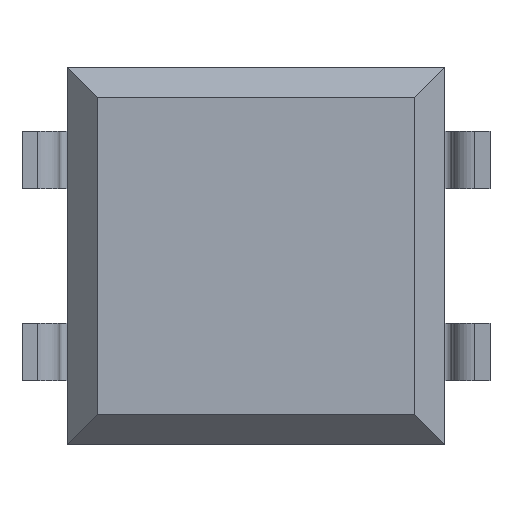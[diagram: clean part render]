
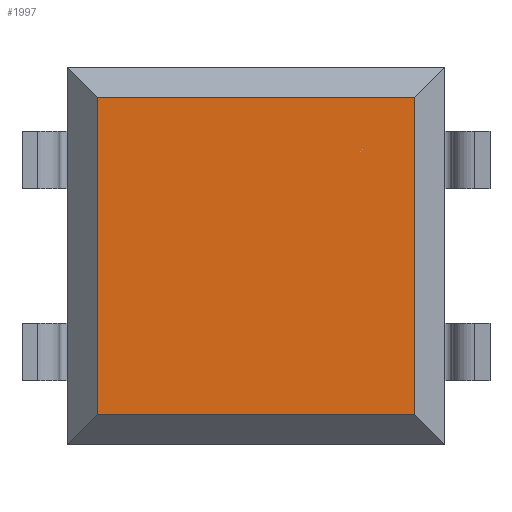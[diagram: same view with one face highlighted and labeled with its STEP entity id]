
A CAD part, front view. The second image highlights one B-rep face of the part: STEP entity #1997.
In plain terms, the highlighted planar face has unit normal (0, -1, 0).
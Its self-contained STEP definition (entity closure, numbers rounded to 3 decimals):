
#1768 = DIRECTION ( 'NONE',  ( 0., 0., 1. ) ) ;
#1769 = DIRECTION ( 'NONE',  ( 0., 1., 0. ) ) ;
#1770 = CARTESIAN_POINT ( 'NONE',  ( 2.5, 0.2, 2.5 ) ) ;
#1772 = AXIS2_PLACEMENT_3D ( 'NONE', #1770, #1769, #1768 ) ;
#1773 = PLANE ( 'NONE',  #1772 ) ;
#1774 = FACE_OUTER_BOUND ( 'NONE', #1978, .T. ) ;
#1794 = CARTESIAN_POINT ( 'NONE',  ( 2.1, 0.2, -2.1 ) ) ;
#1811 = CARTESIAN_POINT ( 'NONE',  ( -2.1, 0.2, -2.1 ) ) ;
#1812 = CARTESIAN_POINT ( 'NONE',  ( 2.1, 0.2, 2.1 ) ) ;
#1821 = DIRECTION ( 'NONE',  ( 1., 0., 0. ) ) ;
#1822 = VECTOR ( 'NONE', #1821, 1000. ) ;
#1823 = CARTESIAN_POINT ( 'NONE',  ( 2.5, 0.2, -2.1 ) ) ;
#1824 = LINE ( 'NONE', #1823, #1822 ) ;
#1833 = DIRECTION ( 'NONE',  ( -1., 0., 0. ) ) ;
#1834 = VECTOR ( 'NONE', #1833, 1000. ) ;
#1835 = CARTESIAN_POINT ( 'NONE',  ( 2.5, 0.2, 2.1 ) ) ;
#1836 = LINE ( 'NONE', #1835, #1834 ) ;
#1837 = CARTESIAN_POINT ( 'NONE',  ( -2.1, 0.2, 2.1 ) ) ;
#1838 = DIRECTION ( 'NONE',  ( 0., 0., 1. ) ) ;
#1839 = VECTOR ( 'NONE', #1838, 1000. ) ;
#1840 = CARTESIAN_POINT ( 'NONE',  ( 2.1, 0.2, 2.5 ) ) ;
#1841 = LINE ( 'NONE', #1840, #1839 ) ;
#1890 = DIRECTION ( 'NONE',  ( 0., 0., -1. ) ) ;
#1891 = VECTOR ( 'NONE', #1890, 1000. ) ;
#1892 = CARTESIAN_POINT ( 'NONE',  ( -2.1, 0.2, -2.5 ) ) ;
#1893 = LINE ( 'NONE', #1892, #1891 ) ;
#1944 = ORIENTED_EDGE ( 'NONE', *, *, #1967, .T. ) ;
#1945 = EDGE_CURVE ( 'NONE', #1966, #1980, #1893, .T. ) ;
#1946 = ORIENTED_EDGE ( 'NONE', *, *, #1972, .T. ) ;
#1964 = ORIENTED_EDGE ( 'NONE', *, *, #1965, .T. ) ;
#1965 = EDGE_CURVE ( 'NONE', #1991, #1977, #1841, .T. ) ;
#1966 = VERTEX_POINT ( 'NONE', #1837 ) ;
#1967 = EDGE_CURVE ( 'NONE', #1977, #1966, #1836, .T. ) ;
#1972 = EDGE_CURVE ( 'NONE', #1980, #1991, #1824, .T. ) ;
#1977 = VERTEX_POINT ( 'NONE', #1812 ) ;
#1978 = EDGE_LOOP ( 'NONE', ( #1964, #1944, #1979, #1946 ) ) ;
#1979 = ORIENTED_EDGE ( 'NONE', *, *, #1945, .T. ) ;
#1980 = VERTEX_POINT ( 'NONE', #1811 ) ;
#1991 = VERTEX_POINT ( 'NONE', #1794 ) ;
#1997 = ADVANCED_FACE ( 'NONE', ( #1774 ), #1773, .F. ) ;
